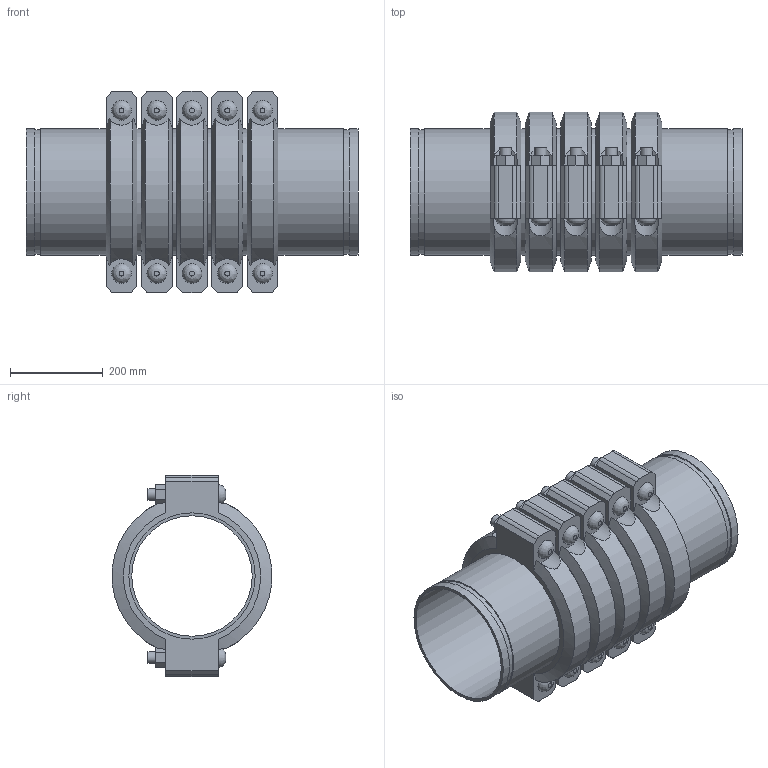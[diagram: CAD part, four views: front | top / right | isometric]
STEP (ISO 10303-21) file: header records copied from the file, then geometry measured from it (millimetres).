
FILE_DESCRIPTION(/* description */ ('VIC SS EXPANSION JOINT 5 COUPLINGS EXPANDED STYLE 155P (OGS) (POTABLE WATER) ','CAx-IF Rec.Pracs.---Representation and Presentation of Product Manufacturing Information (PMI)---4.0---2014-10-13'),/* implementation_level */ '2;1');
FILE_NAME(/* name */ 'C:\Users\kkamble\AppData\Roaming\Autodesk\ApplicationPlugins\Victaulic.Temp\A411\Victaulic_SS_Expansion Joint_Expanded_5 Couplings_Style 155P (OGS)-Potable Water_5 Coup_Expd_10 (250).stp',/* time_stamp */ '2021-07-16T16:53:00+05:00',/* author */ ('kkamble'),/* organization */ ('Victaulic'),/* preprocessor_version */ 'ST-DEVELOPER v17.2',/* originating_system */ 'Autodesk Inventor 2019',/* authorisation */ '');
FILE_SCHEMA (('AP242_MANAGED_MODEL_BASED_3D_ENGINEERING_MIM_LF { 1 0 10303 442 1 1 4 }'));
Length unit declared in the file: inch
Products named in the file (4): 155P-10.0; Nipple-10.0; Nipple-10.0_1; 077-10.0
Assembly tree (11 placements, depth 2):
  155P-10.0
    Nipple-10.0  x2
    Nipple-10.0_1  x4
    077-10.0  x5
Bounding box: 717.55 x 344.9 x 435.1 mm (x, y, z)
Volume: 18091530.6 mm3; surface area: 2686057.3 mm2
Topology: 11 solids, 21 shells, 377 faces, 905 edges, 634 vertices
Faces by surface type: plane 216, cylinder 131, cone 20, bspline 10
Full cylindrical faces by diameter (mm): 25.4 x20, 27.432 x10, 260.35 x6, 264.16 x5, 268.275 x12, 273.05 x28
Entity records: 3064 total; most frequent: CARTESIAN_POINT 675, DIRECTION 477, ORIENTED_EDGE 410, EDGE_CURVE 205, AXIS2_PLACEMENT_3D 194, VERTEX_POINT 146, EDGE_LOOP 111, CIRCLE 96
